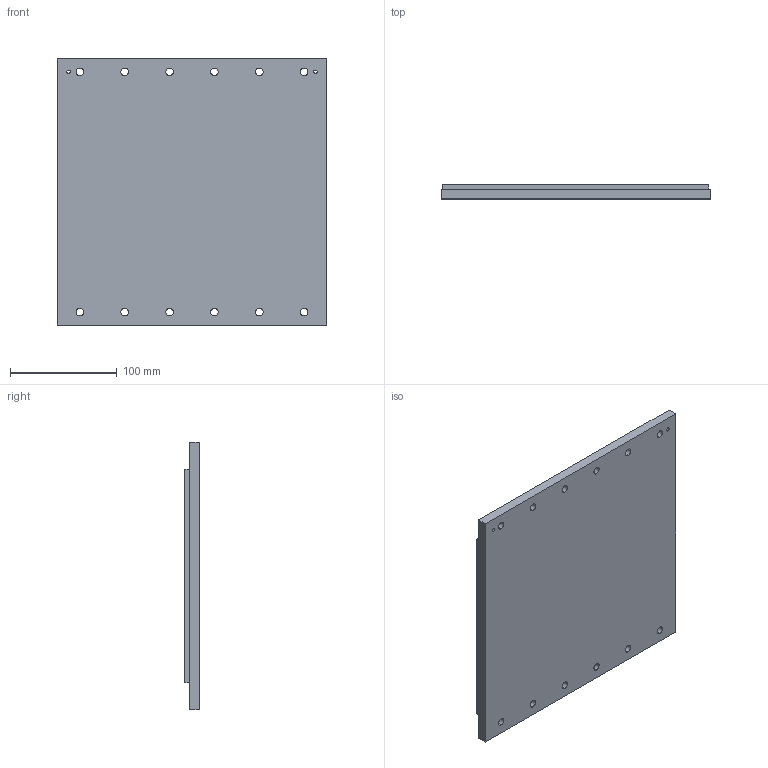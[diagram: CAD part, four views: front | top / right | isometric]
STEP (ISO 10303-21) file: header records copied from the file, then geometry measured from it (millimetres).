
FILE_DESCRIPTION (( 'STEP AP214' ), '1' );
FILE_NAME ('PIXM350-250-TL252-NC.step', '2021-11-01T10:03:21', ( '' ), ( '' ), 'SwSTEP 2.0', 'SolidWorks 2020', '' );
FILE_SCHEMA (( 'AUTOMOTIVE_DESIGN' ));
Length unit declared in the file: millimetre
Products named in the file (1): PIXM350-250-TL252-NC
Bounding box: 252 x 13.5 x 250 mm (x, y, z)
Volume: 784753.4 mm3; surface area: 240737.3 mm2
Topology: 2 solids, 2 shells, 87 faces, 210 edges, 140 vertices
Faces by surface type: cylinder 52, plane 35
Entity records: 3644 total; most frequent: DIRECTION 490, CARTESIAN_POINT 438, ORIENTED_EDGE 420, EDGE_CURVE 210, AXIS2_PLACEMENT_3D 192, VERTEX_POINT 140, EDGE_LOOP 128, LINE 106
